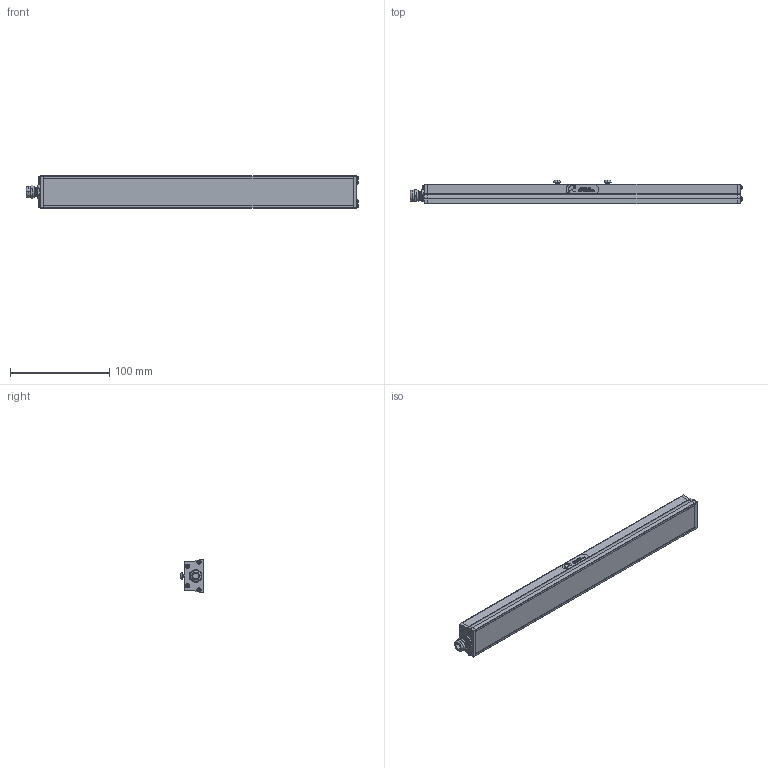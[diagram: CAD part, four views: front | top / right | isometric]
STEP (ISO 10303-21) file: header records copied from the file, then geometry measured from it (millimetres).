
FILE_DESCRIPTION (( 'STEP AP214' ), '1' );
FILE_NAME ('AL116 _NONSEALED__ALL11612.stp', '2021-04-29T14:22:12', ( '' ), ( '' ), 'SwSTEP 2.0', 'SolidWorks 2018', '' );
FILE_SCHEMA (( 'AUTOMOTIVE_DESIGN' ));
Length unit declared in the file: inch
Products named in the file (15): 10mm Label (116 126)_Default<As Machined>; 093469_093469; 090869; BH-M4x6; 091052 (116 126); HN-M4_90592A016; 10mm Ai; 093474_093474; 091064_Model_Dome Fittings_Thread Type and Size(Dome)_M10 x 1.5_Hazardous Location-Explosive Proof(ATEX and EExe Versions)_No_; 10mm Advanced illumination; 090870; 090888-XX_090888-12; 10mm Swish_Default<As Machined>; AL116 _NONSEALED__ALL11612; 090878-XX_090878-12
Assembly tree (24 placements, depth 3):
  AL116 _NONSEALED__ALL11612
    090888-XX_090888-12
    093469_093469  x2
    090869
    090870
    090878-XX_090878-12
    093474_093474  x8
    091064_Model_Dome Fittings_Thread Type and Size(Dome)_M10 x 1.5_Hazardous Location-Explosive Proof(ATEX and EExe Versions)_No_
    091052 (116 126)
      10mm Label (116 126)_Default<As Machined>
      10mm Ai
      10mm Swish_Default<As Machined>
      10mm Advanced illumination
    HN-M4_90592A016  x2
    BH-M4x6  x2
Bounding box: 333.93 x 24.1 x 32.21 mm (x, y, z)
Volume: 63711 mm3; surface area: 92251.3 mm2
Topology: 48 solids, 48 shells, 1911 faces, 4942 edges, 3078 vertices
Faces by surface type: cylinder 954, plane 413, cone 362, bspline 122, torus 60
Entity records: 31843 total; most frequent: CARTESIAN_POINT 11151, ORIENTED_EDGE 4280, DIRECTION 3753, EDGE_CURVE 2140, VERTEX_POINT 1366, AXIS2_PLACEMENT_3D 1335, VECTOR 1083, LINE 1083
